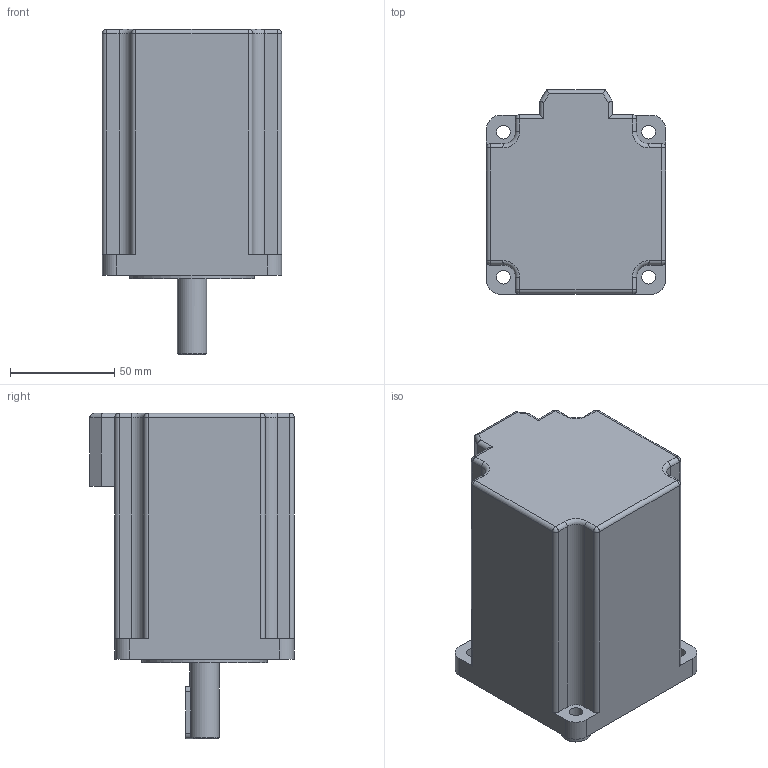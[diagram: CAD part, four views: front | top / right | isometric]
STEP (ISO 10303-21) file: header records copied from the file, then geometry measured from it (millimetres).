
FILE_DESCRIPTION(('STEP AP214'), '1');
FILE_NAME('Äâèãàòåëü øàãîâûé ñ ýíêîäåðîì HD86H118-D14-1K', '', ('UNSPECIFIED'), ('UNSPECIFIED'), 'C3D Converter', 'C3D Toolkit', '');
FILE_SCHEMA(('AUTOMOTIVE_DESIGN { 1 0 10303 214 3 1 1}'));
Length unit declared in the file: millimetre
Bounding box: 86 x 98 x 156 mm (x, y, z)
Volume: 813496.4 mm3; surface area: 57457.3 mm2
Topology: 1 solids, 1 shells, 91 faces, 226 edges, 131 vertices
Faces by surface type: cylinder 43, plane 33, sphere 8, torus 4, cone 3
Full cylindrical faces by diameter (mm): 4.134 x1, 6.6 x4, 14 x1, 60 x1
Entity records: 3522 total; most frequent: CARTESIAN_POINT 666, DIRECTION 448, ORIENTED_EDGE 416, EDGE_CURVE 208, AXIS2_PLACEMENT_3D 165, VERTEX_POINT 130, LINE 118, VECTOR 118
